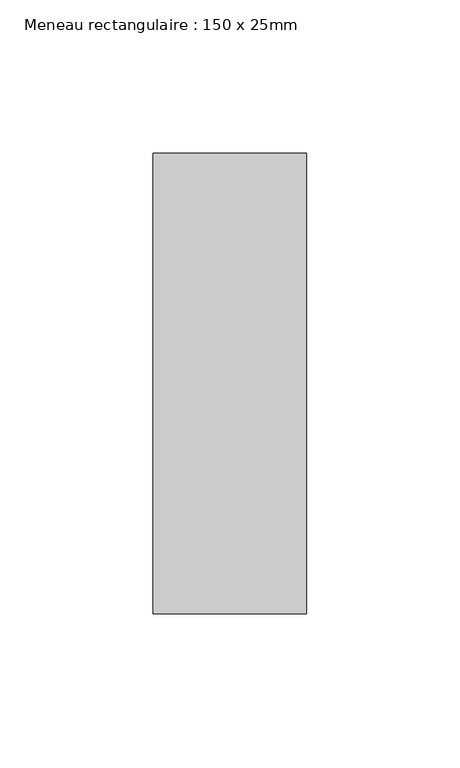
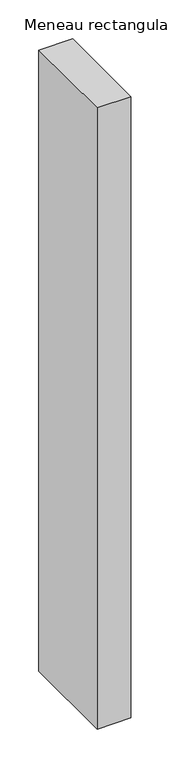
"""IFC4 building model written with IfcOpenShell, lengths in millimetres: member geometry, Meneau rectangulaire : 150 x 25mm."""

from ifc_helpers import new_model, si_unit, frame, origin, place, context, project, spatial, polyline, outline, extrude, source, transform, mapped, element, save


def meneau_rectangulaire_150_x_25mm_2578323a(model_context):
    return source(origin(), model_context, "Body", "SweptSolid", [
        extrude(outline(polyline([(0.0, 75.0), (0.0, -75.0), (-50.0, -75.0), (-50.0, 75.0), (0.0, 75.0)])), frame((0.0, 0.0, -975.0), z_axis=(0.0, 0.0, 1.0), x_axis=(1.0, 0.0, 0.0)), (0.0, 0.0, 1.0), 975.0),
    ])


if __name__ == "__main__":
    model = new_model("IFC4")
    model_context = context("Model", 3, world=origin())
    ifc_project = project(units=[si_unit("LENGTHUNIT", "METRE", prefix="MILLI")], contexts=[model_context])
    site = spatial("IfcSite", under=ifc_project)
    building = spatial("IfcBuilding", under=site)
    placement = place(None, origin())
    meneau_rectangulaire_150_x_25mm_shape = meneau_rectangulaire_150_x_25mm_2578323a(model_context)
    element("IfcMember", 1, ObjectType="Meneau rectangulaire : 150 x 25mm", at=placement, inside=building, context=model_context, shape_type="MappedRepresentation", body=[
        mapped(meneau_rectangulaire_150_x_25mm_shape, transform((0.0, 0.0, 0.0), x_axis=(1.0, 0.0, 0.0), y_axis=(0.0, 1.0, 0.0), z_axis=(0.0, 0.0, 1.0))),
    ])
    save(model, "model.ifc")
